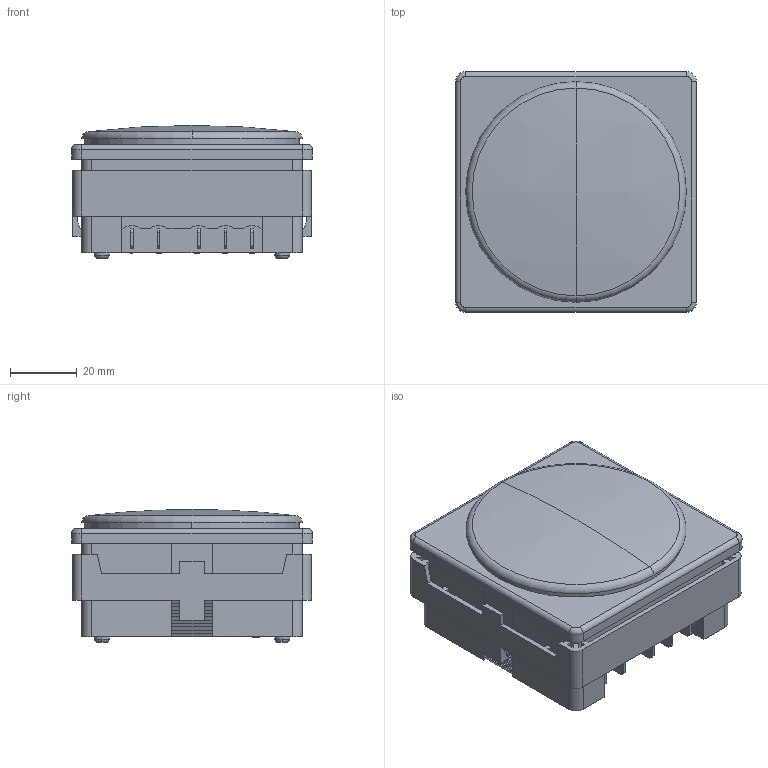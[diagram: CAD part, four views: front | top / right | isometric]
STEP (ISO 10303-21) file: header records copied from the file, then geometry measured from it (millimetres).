
FILE_DESCRIPTION (( 'STEP AP203' ), '1' );
FILE_NAME ('TM-DSPCA4.STEP', '2018-07-12T17:41:01', ( '' ), ( '' ), 'SwSTEP 2.0', 'SolidWorks 2012', '' );
FILE_SCHEMA (( 'CONFIG_CONTROL_DESIGN' ));
Length unit declared in the file: millimetre
Products named in the file (1): TM-DSPCA4
Bounding box: 72 x 72 x 39.8 mm (x, y, z)
Volume: 150494.5 mm3; surface area: 38423.7 mm2
Topology: 2 solids, 2 shells, 1784 faces, 4999 edges, 3318 vertices
Faces by surface type: plane 1360, bspline 258, cylinder 107, sphere 37, torus 22
Entity records: 72376 total; most frequent: CARTESIAN_POINT 27386, ORIENTED_EDGE 9998, DIRECTION 8302, EDGE_CURVE 4999, VECTOR 3428, LINE 3428, VERTEX_POINT 3318, AXIS2_PLACEMENT_3D 2437
